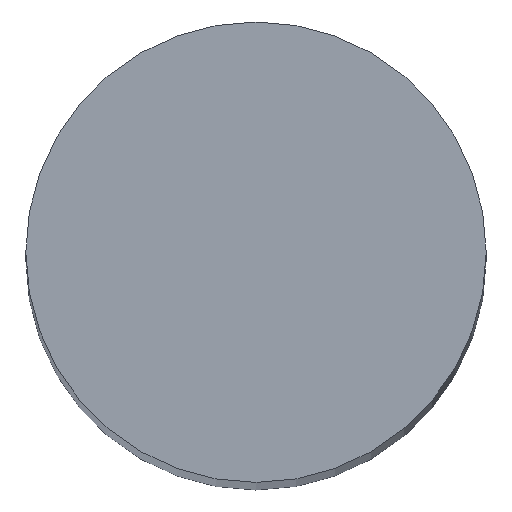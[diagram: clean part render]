
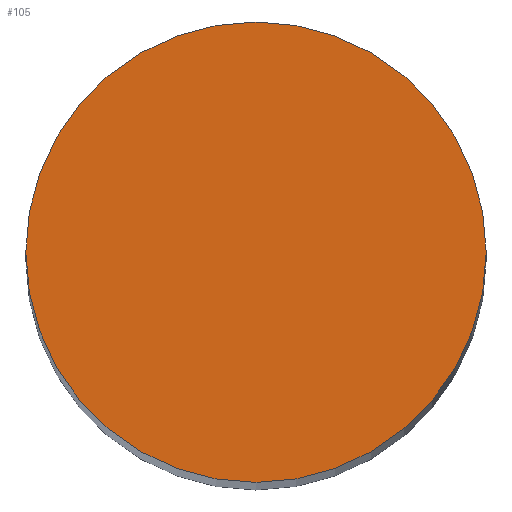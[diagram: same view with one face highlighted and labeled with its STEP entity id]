
A CAD part, top view. The second image highlights one B-rep face of the part: STEP entity #105.
In plain terms, the highlighted planar face has unit normal (0, 0, 1).
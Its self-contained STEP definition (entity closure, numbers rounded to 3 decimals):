
#21 = EDGE_CURVE('',#22,#22,#24,.T.);
#22 = VERTEX_POINT('',#23);
#23 = CARTESIAN_POINT('',(-64.5,-143.113,80.));
#24 = SURFACE_CURVE('',#25,(#30,#42),.PCURVE_S1.);
#25 = CIRCLE('',#26,3.);
#26 = AXIS2_PLACEMENT_3D('',#27,#28,#29);
#27 = CARTESIAN_POINT('',(-67.5,-143.113,80.));
#28 = DIRECTION('',(0.,0.,1.));
#29 = DIRECTION('',(1.,0.,-0.));
#30 = PCURVE('',#31,#36);
#31 = CYLINDRICAL_SURFACE('',#32,3.);
#32 = AXIS2_PLACEMENT_3D('',#33,#34,#35);
#33 = CARTESIAN_POINT('',(-67.5,-143.113,23.5));
#34 = DIRECTION('',(0.,0.,1.));
#35 = DIRECTION('',(1.,0.,-0.));
#36 = DEFINITIONAL_REPRESENTATION('',(#37),#41);
#37 = LINE('',#38,#39);
#38 = CARTESIAN_POINT('',(0.,56.5));
#39 = VECTOR('',#40,1.);
#40 = DIRECTION('',(1.,0.));
#41 = ( GEOMETRIC_REPRESENTATION_CONTEXT(2) 
PARAMETRIC_REPRESENTATION_CONTEXT() REPRESENTATION_CONTEXT('2D SPACE',''
  ) );
#42 = PCURVE('',#43,#48);
#43 = PLANE('',#44);
#44 = AXIS2_PLACEMENT_3D('',#45,#46,#47);
#45 = CARTESIAN_POINT('',(-67.5,-143.113,80.));
#46 = DIRECTION('',(0.,0.,1.));
#47 = DIRECTION('',(1.,0.,-0.));
#48 = DEFINITIONAL_REPRESENTATION('',(#49),#53);
#49 = CIRCLE('',#50,3.);
#50 = AXIS2_PLACEMENT_2D('',#51,#52);
#51 = CARTESIAN_POINT('',(0.,0.));
#52 = DIRECTION('',(1.,0.));
#53 = ( GEOMETRIC_REPRESENTATION_CONTEXT(2) 
PARAMETRIC_REPRESENTATION_CONTEXT() REPRESENTATION_CONTEXT('2D SPACE',''
  ) );
#105 = ADVANCED_FACE('',(#106),#43,.T.);
#106 = FACE_BOUND('',#107,.T.);
#107 = EDGE_LOOP('',(#108));
#108 = ORIENTED_EDGE('',*,*,#21,.T.);
